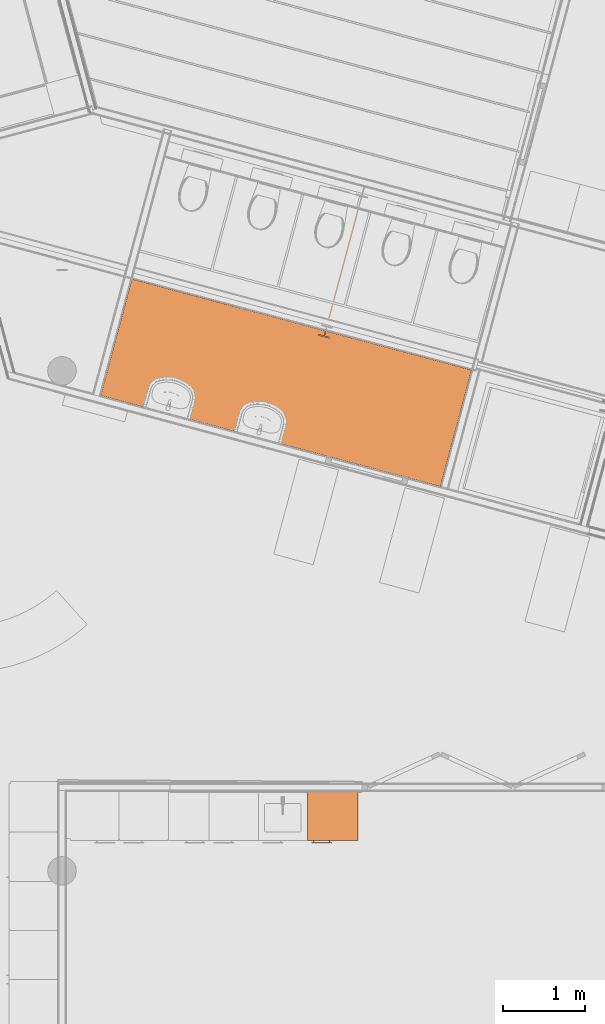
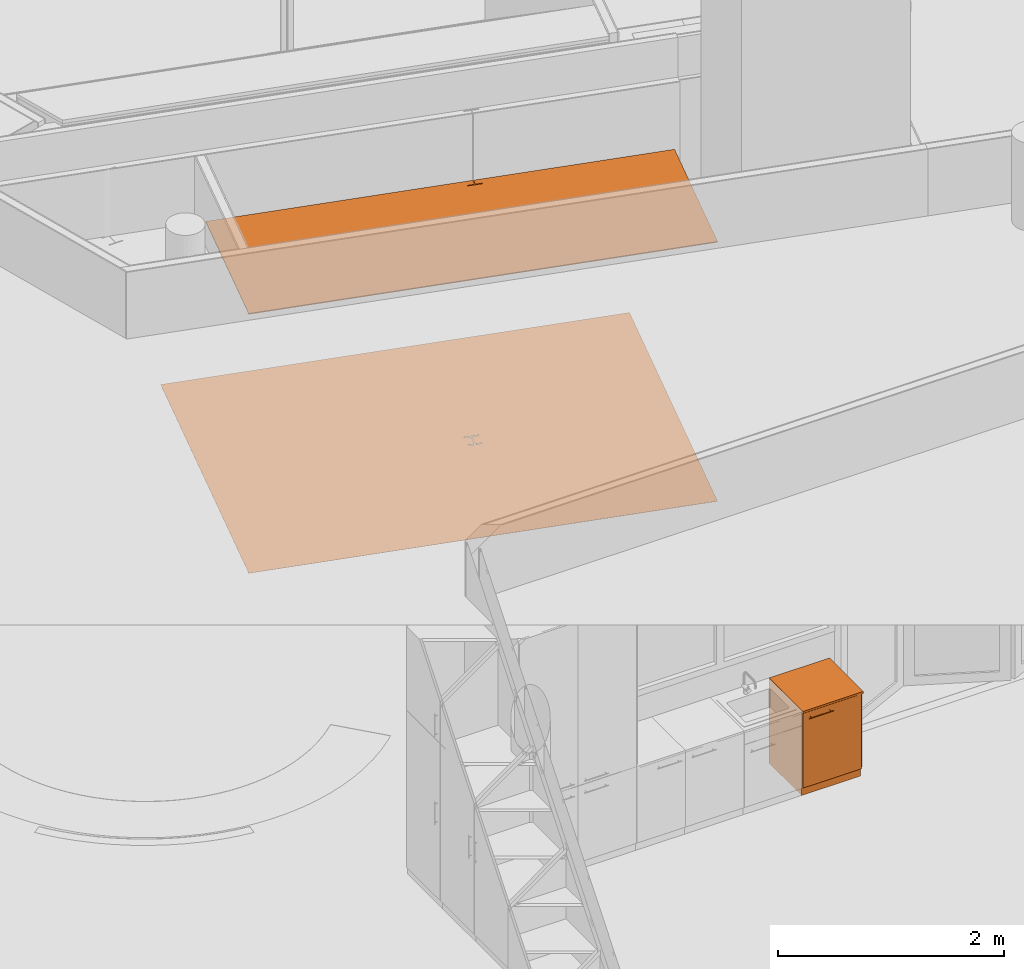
# One storey, part 123 of 167: 3 proxies.
"""IFC2X3 building model written with IfcOpenShell, lengths in millimetres."""

from ifc_helpers import new_model, entity, si_unit, converted_unit, derived_unit, money_unit, direction, frame, origin_with_axes, place, context, subcontext, project, spatial, open_shell, faceted_brep, surface_model, material, type_object, element, save


model = new_model("IFC2X3")

# Units and contexts
model_context = context("Model", 3, precision=0.01, world=origin_with_axes(), true_north=direction((0.0, 1.0)))
plan_context = context("Plan", 3, precision=0.01, world=origin_with_axes(), true_north=direction((0.0, 1.0)))
body_context = subcontext(model_context, "Body", "Model", "MODEL_VIEW")
ifc_project = project(units=[si_unit("LENGTHUNIT", "METRE", prefix="MILLI"), si_unit("AREAUNIT", "SQUARE_METRE"), si_unit("VOLUMEUNIT", "CUBIC_METRE"), converted_unit("PLANEANGLEUNIT", "DEGREE", entity("IfcPlaneAngleMeasure", 0.0174532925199), si_unit("PLANEANGLEUNIT", "RADIAN"), dimensions=[0, 0, 0, 0, 0, 0, 0]), si_unit("SOLIDANGLEUNIT", "STERADIAN"), money_unit("EUR"), converted_unit("TIMEUNIT", "Year", entity("IfcTimeMeasure", 31556926.0), si_unit("TIMEUNIT", "SECOND"), dimensions=[0, 0, 1, 0, 0, 0, 0]), si_unit("MASSUNIT", "GRAM", prefix="KILO"), si_unit("THERMODYNAMICTEMPERATUREUNIT", "DEGREE_CELSIUS"), si_unit("LUMINOUSINTENSITYUNIT", "LUMEN"), si_unit("ENERGYUNIT", "JOULE", prefix="MEGA"), derived_unit("THERMALCONDUCTANCEUNIT", [(si_unit("POWERUNIT", "WATT"), 1), (si_unit("LENGTHUNIT", "METRE"), -1), (si_unit("THERMODYNAMICTEMPERATUREUNIT", "KELVIN"), -1)]), derived_unit("SPECIFICHEATCAPACITYUNIT", [(si_unit("ENERGYUNIT", "JOULE"), 1), (si_unit("MASSUNIT", "GRAM", prefix="KILO"), -1), (si_unit("THERMODYNAMICTEMPERATUREUNIT", "KELVIN"), -1)]), derived_unit("MASSDENSITYUNIT", [(si_unit("MASSUNIT", "GRAM", prefix="KILO"), 1), (si_unit("VOLUMEUNIT", "CUBIC_METRE"), -1)])], contexts=[model_context, plan_context])

# Site, building, storey
site_placement = place(None, origin_with_axes())
site = spatial("IfcSite", under=ifc_project, at=site_placement, Name="Site", CompositionType="ELEMENT")
building_placement = place(site_placement, origin_with_axes())
building = spatial("IfcBuilding", under=site, at=building_placement, Name="Naam gebouw", CompositionType="ELEMENT")
storey_placement = place(building_placement, origin_with_axes())
storey = spatial("IfcBuildingStorey", under=building, at=storey_placement, Name="Begane grond", CompositionType="ELEMENT", Elevation=0.0)

# Proxies
building_element_proxy_type_1 = type_object("IfcBuildingElementProxyType", Name="Kast basis 1D 24", PredefinedType="NOTDEFINED")
proxy_1_placement = place(storey_placement, frame((18020.0, 7573.34783859, 0.0), z_axis=(0.0, 0.0, 1.0), x_axis=(1.0, 0.0, 0.0)))
element("IfcBuildingElementProxy", 1, at=proxy_1_placement, inside=storey, type_object=building_element_proxy_type_1, Name="__Object-x", context=body_context, shape_type="SurfaceModel", body=[
    faceted_brep([(-20.0, 20.0, 0.0), (-20.0, 20.0, 90.0), (-620.0, 20.0, 90.0), (-620.0, 20.0, 0.0), (-20.0, 600.0, 0.0), (-20.0, 600.0, 90.0), (-620.0, 600.0, 90.0), (-620.0, 600.0, 0.0)], [[[0, 1, 2, 3]], [[4, 5, 1, 0]], [[1, 5, 6, 2]], [[3, 2, 6, 7]], [[0, 3, 7, 4]], [[7, 6, 5, 4]]]),
    faceted_brep([(-20.0, 20.0, 880.0), (-20.0, 20.0, 900.0), (-40.0, 20.0, 900.0), (-40.0, 20.0, 880.0), (-20.0, 600.0, 880.0), (-20.0, 600.0, 900.0), (-40.0, 600.0, 900.0), (-600.0, 600.0, 900.0), (-620.0, 600.0, 900.0), (-620.0, 20.0, 900.0), (-600.0, 20.0, 900.0), (-600.0, 20.0, 880.0), (-620.0, 20.0, 880.0), (-620.0, 600.0, 880.0), (-600.0, 600.0, 880.0), (-40.0, 600.0, 880.0)], [[[0, 1, 2, 3]], [[4, 5, 1, 0]], [[1, 5, 6, 7, 8, 9, 10, 2]], [[3, 2, 10, 11]], [[0, 3, 11, 12, 13, 14, 15, 4]], [[15, 6, 5, 4]], [[14, 7, 6, 15]], [[13, 8, 7, 14]], [[12, 9, 8, 13]], [[11, 10, 9, 12]]]),
    faceted_brep([(-20.0, 20.0, 90.0), (-20.0, 20.0, 110.0), (-40.0, 20.0, 110.0), (-40.0, 20.0, 90.0), (-20.0, 600.0, 90.0), (-20.0, 600.0, 110.0), (-40.0, 600.0, 110.0), (-600.0, 600.0, 110.0), (-620.0, 600.0, 110.0), (-620.0, 20.0, 110.0), (-600.0, 20.0, 110.0), (-600.0, 20.0, 90.0), (-620.0, 20.0, 90.0), (-620.0, 600.0, 90.0), (-600.0, 600.0, 90.0), (-40.0, 600.0, 90.0)], [[[0, 1, 2, 3]], [[4, 5, 1, 0]], [[1, 5, 6, 7, 8, 9, 10, 2]], [[3, 2, 10, 11]], [[0, 3, 11, 12, 13, 14, 15, 4]], [[15, 6, 5, 4]], [[14, 7, 6, 15]], [[13, 8, 7, 14]], [[12, 9, 8, 13]], [[11, 10, 9, 12]]]),
    faceted_brep([(-20.0, 20.0, 110.0), (-20.0, 20.0, 880.0), (-40.0, 20.0, 880.0), (-40.0, 20.0, 110.0), (-20.0, 600.0, 110.0), (-20.0, 600.0, 880.0), (-620.0, 600.0, 880.0), (-620.0, 20.0, 880.0), (-600.0, 20.0, 880.0), (-600.0, 580.0, 880.0), (-40.0, 580.0, 880.0), (-40.0, 580.0, 110.0), (-600.0, 580.0, 110.0), (-600.0, 20.0, 110.0), (-620.0, 20.0, 110.0), (-620.0, 600.0, 110.0)], [[[0, 1, 2, 3]], [[4, 5, 1, 0]], [[1, 5, 6, 7, 8, 9, 10, 2]], [[3, 2, 10, 11]], [[0, 3, 11, 12, 13, 14, 15, 4]], [[15, 6, 5, 4]], [[14, 7, 6, 15]], [[13, 8, 7, 14]], [[12, 9, 8, 13]], [[11, 10, 9, 12]]]),
    faceted_brep([(-600.0, 20.0, 475.0), (-600.0, 20.0, 495.0), (-600.0, 580.0, 495.0), (-600.0, 580.0, 475.0), (-40.0, 20.0, 475.0), (-40.0, 20.0, 495.0), (-40.0, 580.0, 495.0), (-40.0, 580.0, 475.0)], [[[0, 1, 2, 3]], [[4, 5, 1, 0]], [[1, 5, 6, 2]], [[3, 2, 6, 7]], [[0, 3, 7, 4]], [[7, 6, 5, 4]]]),
    faceted_brep([(0.0, 0.0, 900.0), (0.0, 0.0, 920.0), (-620.0, 0.0, 920.0), (-620.0, 0.0, 900.0), (0.0, 600.0, 900.0), (0.0, 600.0, 920.0), (-620.0, 600.0, 920.0), (-620.0, 600.0, 900.0)], [[[0, 1, 2, 3]], [[4, 5, 1, 0]], [[1, 5, 6, 2]], [[3, 2, 6, 7]], [[0, 3, 7, 4]], [[7, 6, 5, 4]]]),
    faceted_brep([(-21.5, 20.0, 91.5), (-21.5, 0.0, 91.5), (-618.5, 0.0, 91.5), (-618.5, 20.0, 91.5), (-21.5, 20.0, 898.5), (-21.5, 0.0, 898.5), (-618.5, 0.0, 898.5), (-618.5, 20.0, 898.5)], [[[0, 1, 2, 3]], [[4, 5, 1, 0]], [[1, 5, 6, 2]], [[3, 2, 6, 7]], [[0, 3, 7, 4]], [[7, 6, 5, 4]]]),
    faceted_brep([(-318.5, -28.1480502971, 838.728361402), (-318.5, -27.0, 838.5), (-318.5, -25.8519497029, 838.728361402), (-318.5, -24.8786796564, 839.378679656), (-318.5, -24.2283614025, 840.351949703), (-318.5, -24.0, 841.5), (-318.5, -24.2283614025, 842.648050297), (-318.5, -24.8786796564, 843.621320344), (-318.5, -25.8519497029, 844.271638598), (-318.5, -27.0, 844.5), (-318.5, -28.1480502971, 844.271638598), (-318.5, -29.1213203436, 843.621320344), (-318.5, -29.7716385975, 842.648050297), (-318.5, -30.0, 841.5), (-318.5, -29.7716385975, 840.351949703), (-318.5, -29.1213203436, 839.378679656), (-568.5, -28.1480502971, 838.728361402), (-568.5, -27.0, 838.5), (-568.5, -25.8519497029, 838.728361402), (-568.5, -24.8786796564, 839.378679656), (-568.5, -24.2283614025, 840.351949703), (-568.5, -24.0, 841.5), (-568.5, -24.2283614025, 842.648050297), (-568.5, -24.8786796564, 843.621320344), (-568.5, -25.8519497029, 844.271638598), (-568.5, -27.0, 844.5), (-568.5, -28.1480502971, 844.271638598), (-568.5, -29.1213203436, 843.621320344), (-568.5, -29.7716385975, 842.648050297), (-568.5, -30.0, 841.5), (-568.5, -29.7716385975, 840.351949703), (-568.5, -29.1213203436, 839.378679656)], [[[0, 1, 2, 3, 4, 5, 6, 7, 8, 9, 10, 11, 12, 13, 14, 15]], [[0, 16, 17, 1]], [[1, 17, 18, 2]], [[2, 18, 19, 3]], [[3, 19, 20, 4]], [[4, 20, 21, 5]], [[5, 21, 22, 6]], [[6, 22, 23, 7]], [[7, 23, 24, 8]], [[8, 24, 25, 9]], [[9, 25, 26, 10]], [[10, 26, 27, 11]], [[11, 27, 28, 12]], [[12, 28, 29, 13]], [[13, 29, 30, 14]], [[14, 30, 31, 15]], [[15, 31, 16, 0]], [[16, 31, 30, 29, 28, 27, 26, 25, 24, 23, 22, 21, 20, 19, 18, 17]]]),
    surface_model("IfcShellBasedSurfaceModel", [(-341.190301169, -24.156637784, 840.543291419), (-341.190301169, 0.0, 840.543291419), (-341.0, 0.0, 841.5), (-341.0, -24.0, 841.5), (-341.732233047, -24.5761600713, 839.732233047), (-341.732233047, 0.0, 839.732233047), (-342.543291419, 0.0, 839.190301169), (-343.5, 0.0, 839.0), (-344.456708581, 0.0, 839.190301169), (-345.267766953, 0.0, 839.732233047), (-345.809698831, 0.0, 840.543291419), (-346.0, 0.0, 841.5), (-345.809698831, 0.0, 842.456708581), (-345.267766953, 0.0, 843.267766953), (-344.456708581, 0.0, 843.809698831), (-343.5, 0.0, 844.0), (-342.543291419, 0.0, 843.809698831), (-341.732233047, 0.0, 843.267766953), (-341.190301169, 0.0, 842.456708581), (-341.190301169, -24.156637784, 842.456708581), (-342.543291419, -25.0855049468, 839.190301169), (-343.5, -25.3416876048, 839.0), (-344.456708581, -25.0855049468, 839.190301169), (-345.267766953, -24.5761600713, 839.732233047), (-345.809698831, -24.156637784, 840.543291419), (-346.0, -24.0, 841.5), (-345.809698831, -24.156637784, 842.456708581), (-345.267766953, -24.5761600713, 843.267766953), (-344.456708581, -25.0855049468, 843.809698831), (-343.5, -25.3416876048, 844.0), (-342.543291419, -25.0855049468, 843.809698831), (-341.732233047, -24.5761600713, 843.267766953)], [open_shell([[[0, 1, 2, 3]], [[4, 5, 1, 0]], [[1, 5, 6, 7, 8, 9, 10, 11, 12, 13, 14, 15, 16, 17, 18, 2]], [[3, 2, 18, 19]], [[20, 6, 5, 4]], [[21, 7, 6, 20]], [[22, 8, 7, 21]], [[23, 9, 8, 22]], [[24, 10, 9, 23]], [[25, 11, 10, 24]], [[26, 12, 11, 25]], [[27, 13, 12, 26]], [[28, 14, 13, 27]], [[29, 15, 14, 28]], [[30, 16, 15, 29]], [[31, 17, 16, 30]], [[19, 18, 17, 31]]])]),
    surface_model("IfcShellBasedSurfaceModel", [(-541.190301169, -24.156637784, 840.543291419), (-541.190301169, 0.0, 840.543291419), (-541.0, 0.0, 841.5), (-541.0, -24.0, 841.5), (-541.732233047, -24.5761600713, 839.732233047), (-541.732233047, 0.0, 839.732233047), (-542.543291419, 0.0, 839.190301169), (-543.5, 0.0, 839.0), (-544.456708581, 0.0, 839.190301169), (-545.267766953, 0.0, 839.732233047), (-545.809698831, 0.0, 840.543291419), (-546.0, 0.0, 841.5), (-545.809698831, 0.0, 842.456708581), (-545.267766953, 0.0, 843.267766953), (-544.456708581, 0.0, 843.809698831), (-543.5, 0.0, 844.0), (-542.543291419, 0.0, 843.809698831), (-541.732233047, 0.0, 843.267766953), (-541.190301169, 0.0, 842.456708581), (-541.190301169, -24.156637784, 842.456708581), (-542.543291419, -25.0855049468, 839.190301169), (-543.5, -25.3416876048, 839.0), (-544.456708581, -25.0855049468, 839.190301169), (-545.267766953, -24.5761600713, 839.732233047), (-545.809698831, -24.156637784, 840.543291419), (-546.0, -24.0, 841.5), (-545.809698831, -24.156637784, 842.456708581), (-545.267766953, -24.5761600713, 843.267766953), (-544.456708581, -25.0855049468, 843.809698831), (-543.5, -25.3416876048, 844.0), (-542.543291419, -25.0855049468, 843.809698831), (-541.732233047, -24.5761600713, 843.267766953)], [open_shell([[[0, 1, 2, 3]], [[4, 5, 1, 0]], [[1, 5, 6, 7, 8, 9, 10, 11, 12, 13, 14, 15, 16, 17, 18, 2]], [[3, 2, 18, 19]], [[20, 6, 5, 4]], [[21, 7, 6, 20]], [[22, 8, 7, 21]], [[23, 9, 8, 22]], [[24, 10, 9, 23]], [[25, 11, 10, 24]], [[26, 12, 11, 25]], [[27, 13, 12, 26]], [[28, 14, 13, 27]], [[29, 15, 14, 28]], [[30, 16, 15, 29]], [[31, 17, 16, 30]], [[19, 18, 17, 31]]])]),
    faceted_brep([(-20.0, 598.5, 91.5), (0.0, 598.5, 91.5), (0.0, 21.5, 91.5), (-20.0, 21.5, 91.5), (-20.0, 598.5, 898.5), (0.0, 598.5, 898.5), (0.0, 21.5, 898.5), (-20.0, 21.5, 898.5)], [[[0, 1, 2, 3]], [[4, 5, 1, 0]], [[1, 5, 6, 2]], [[3, 2, 6, 7]], [[0, 3, 7, 4]], [[7, 6, 5, 4]]]),
])
ifc_material_1 = material(Name="ALG - BINNENAFWERKING")
building_element_proxy_type_2 = type_object("IfcBuildingElementProxyType", Name="ALG - BINNENAFWERKING 10", PredefinedType="NOTDEFINED")
proxy_2_placement = place(storey_placement, frame((14870.2161746, 13000.7821026, 2800.0), z_axis=(0.0, 0.0, 1.0), x_axis=(1.0, 0.0, 0.0)))
element("IfcBuildingElementProxy", 2, at=proxy_2_placement, inside=storey, type_object=building_element_proxy_type_2, material=ifc_material_1, Name="23__Vloer-x", context=body_context, shape_type="Brep", body=[
    faceted_brep([(4538.46831474, 323.870126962, 10.0), (2755.78249579, 801.539352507, 10.0), (2739.08866737, 739.237136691, 10.0), (2804.04717919, 721.831555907, 10.0), (2801.84721731, 713.621186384, 10.0), (2666.61760163, 749.855852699, 10.0), (2668.81756351, 758.066222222, 10.0), (2733.77607533, 740.660641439, 10.0), (2750.46990374, 802.962857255, 10.0), (384.987261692, 1436.7920209, 10.0), (3.23523806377, 12.0740728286, 10.0), (4156.71629111, -1100.84782111, 10.0), (4538.46831474, 323.870126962, 0.0), (2755.78249579, 801.539352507, 0.0), (2739.08866737, 739.237136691, 0.0), (2804.04717919, 721.831555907, 0.0), (2801.84721731, 713.621186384, 0.0), (2666.61760163, 749.855852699, 0.0), (2668.81756351, 758.066222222, 0.0), (2733.77607533, 740.660641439, 0.0), (2750.46990374, 802.962857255, 0.0), (384.987261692, 1436.7920209, 0.0), (3.23523806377, 12.0740728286, 0.0), (4156.71629111, -1100.84782111, 0.0)], [[[0, 1, 2, 3, 4, 5, 6, 7, 8, 9, 10, 11]], [[12, 13, 1, 0]], [[14, 2, 1, 13]], [[15, 3, 2, 14]], [[16, 4, 3, 15]], [[17, 5, 4, 16]], [[18, 6, 5, 17]], [[19, 7, 6, 18]], [[19, 20, 8, 7]], [[9, 8, 20, 21]], [[9, 21, 22, 10]], [[10, 22, 23, 11]], [[12, 0, 11, 23]], [[15, 14, 13, 12, 23, 22, 21, 20, 19, 18, 17, 16]]]),
])
ifc_material_2 = material(Name="_TenW_43_Flexx F15")
building_element_proxy_type_3 = type_object("IfcBuildingElementProxyType", Name="_TenW_43_Flexx F15 2", PredefinedType="NOTDEFINED")
proxy_3_placement = place(storey_placement, frame((19026.9324658, 11899.9342815, 0.0), z_axis=(0.0, 0.0, 1.0), x_axis=(1.0, 0.0, 0.0)))
element("IfcBuildingElementProxy", 3, at=proxy_3_placement, inside=storey, type_object=building_element_proxy_type_3, material=ifc_material_2, Name="23__Vloer-x", context=body_context, shape_type="Brep", body=[
    faceted_brep([(-3372.39563441, 4027.97236134, 0.0), (781.085418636, 2915.0504674, 0.0), (0.0, 0.0, 0.0), (-4153.48105304, 1112.92189394, 0.0), (-1417.62762373, 1840.0849578, 0.0), (-1387.6046145, 1952.13235365, 0.0), (-1322.64610268, 1934.72677287, 0.0), (-1320.4461408, 1942.93714239, 0.0), (-1455.67575648, 1979.17180871, 0.0), (-1457.87571836, 1970.96143918, 0.0), (-1392.91720655, 1953.5558584, 0.0), (-1422.94021578, 1841.50846255, 0.0), (-1487.8987276, 1858.91404333, 0.0), (-1490.09868948, 1850.70367381, 0.0), (-1354.8690738, 1814.4690075, 0.0), (-1352.66911192, 1822.67937702, 0.0), (-3372.39563441, 4027.97236134, 2.0), (781.085418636, 2915.0504674, 2.0), (0.0, 0.0, 2.0), (-4153.48105304, 1112.92189394, 2.0), (-1417.62762373, 1840.0849578, 2.0), (-1387.6046145, 1952.13235365, 2.0), (-1322.64610268, 1934.72677287, 2.0), (-1320.4461408, 1942.93714239, 2.0), (-1455.67575648, 1979.17180871, 2.0), (-1457.87571836, 1970.96143918, 2.0), (-1392.91720655, 1953.5558584, 2.0), (-1422.94021578, 1841.50846255, 2.0), (-1487.8987276, 1858.91404333, 2.0), (-1490.09868948, 1850.70367381, 2.0), (-1354.8690738, 1814.4690075, 2.0), (-1352.66911192, 1822.67937702, 2.0)], [[[0, 1, 2, 3], [4, 5, 6, 7, 8, 9, 10, 11, 12, 13, 14, 15]], [[16, 17, 1, 0]], [[17, 18, 2, 1]], [[18, 19, 3, 2]], [[19, 16, 0, 3]], [[4, 20, 21, 5]], [[5, 21, 22, 6]], [[6, 22, 23, 7]], [[7, 23, 24, 8]], [[8, 24, 25, 9]], [[9, 25, 26, 10]], [[10, 26, 27, 11]], [[11, 27, 28, 12]], [[12, 28, 29, 13]], [[13, 29, 30, 14]], [[14, 30, 31, 15]], [[15, 31, 20, 4]], [[16, 19, 18, 17], [26, 25, 24, 23, 22, 21, 20, 31, 30, 29, 28, 27]]]),
])

save(model, "model.ifc")
